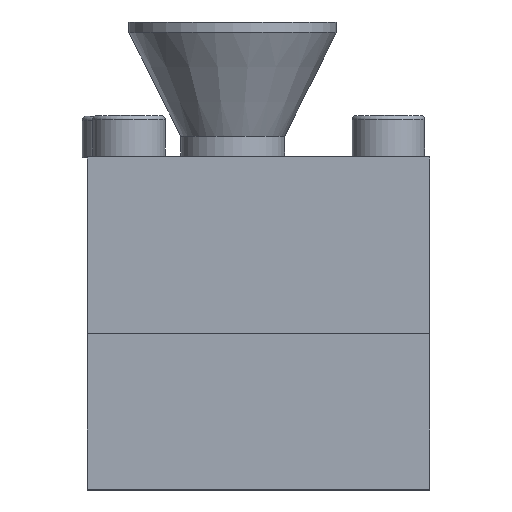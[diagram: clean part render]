
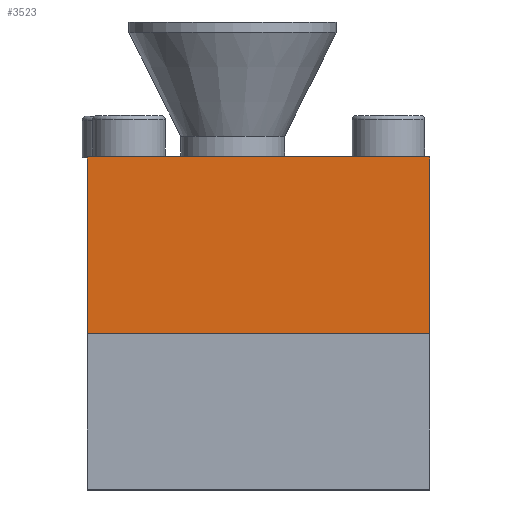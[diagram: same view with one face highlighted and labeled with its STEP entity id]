
A CAD part, top view. The second image highlights one B-rep face of the part: STEP entity #3523.
In plain terms, the highlighted planar face has unit normal (0, 0, 1).
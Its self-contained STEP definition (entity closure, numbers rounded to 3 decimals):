
#327=PLANE('',#3818);
#443=FACE_OUTER_BOUND('',#668,.T.);
#668=EDGE_LOOP('',(#2666,#2667,#2668,#2669));
#917=LINE('',#5506,#1198);
#935=LINE('',#5719,#1216);
#936=LINE('',#5720,#1217);
#937=LINE('',#5721,#1218);
#1198=VECTOR('',#4335,10.);
#1216=VECTOR('',#4417,10.);
#1217=VECTOR('',#4418,10.);
#1218=VECTOR('',#4419,10.);
#1625=VERTEX_POINT('',#5503);
#1626=VERTEX_POINT('',#5505);
#1656=VERTEX_POINT('',#5717);
#1657=VERTEX_POINT('',#5718);
#1980=EDGE_CURVE('',#1625,#1626,#917,.T.);
#2028=EDGE_CURVE('',#1656,#1657,#935,.T.);
#2029=EDGE_CURVE('',#1626,#1657,#936,.T.);
#2030=EDGE_CURVE('',#1656,#1625,#937,.T.);
#2666=ORIENTED_EDGE('',*,*,#2028,.T.);
#2667=ORIENTED_EDGE('',*,*,#2029,.F.);
#2668=ORIENTED_EDGE('',*,*,#1980,.F.);
#2669=ORIENTED_EDGE('',*,*,#2030,.F.);
#3523=ADVANCED_FACE('',(#443),#327,.T.);
#3818=AXIS2_PLACEMENT_3D('',#5716,#4415,#4416);
#4335=DIRECTION('',(0.,-1.,0.));
#4415=DIRECTION('center_axis',(0.,0.,1.));
#4416=DIRECTION('ref_axis',(-1.,0.,0.));
#4417=DIRECTION('',(0.,-1.,0.));
#4418=DIRECTION('',(-1.,0.,0.));
#4419=DIRECTION('',(1.,0.,0.));
#5503=CARTESIAN_POINT('',(4.,5.,5.));
#5505=CARTESIAN_POINT('',(4.,-12.,5.));
#5506=CARTESIAN_POINT('',(4.,5.,5.));
#5716=CARTESIAN_POINT('Origin',(4.,5.,5.));
#5717=CARTESIAN_POINT('',(-29.,5.,5.));
#5718=CARTESIAN_POINT('',(-29.,-12.,5.));
#5719=CARTESIAN_POINT('',(-29.,5.,5.));
#5720=CARTESIAN_POINT('',(-4.25,-12.,5.));
#5721=CARTESIAN_POINT('',(-29.,5.,5.));
